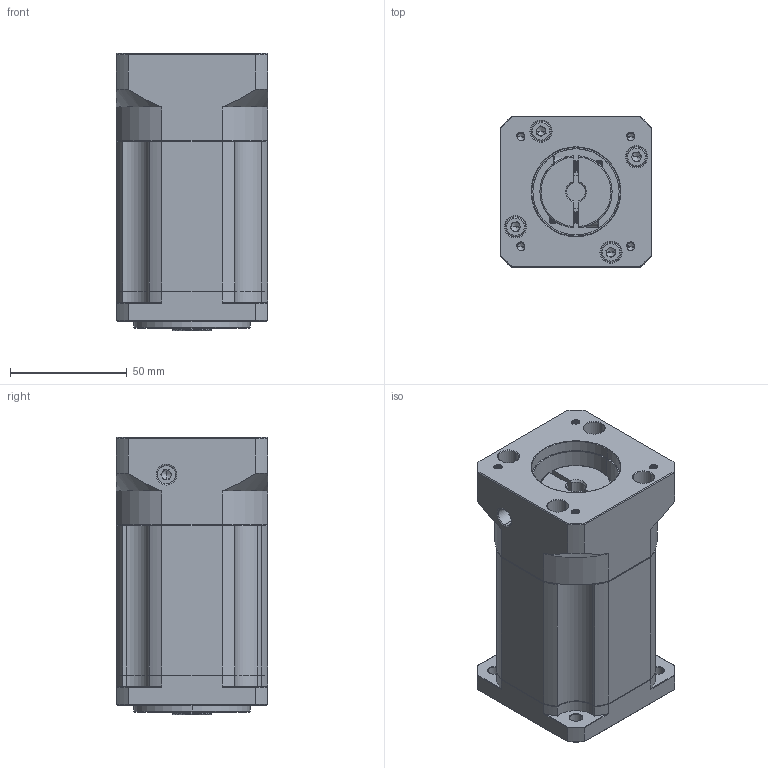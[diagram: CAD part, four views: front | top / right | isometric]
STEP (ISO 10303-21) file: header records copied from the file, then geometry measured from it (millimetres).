
FILE_DESCRIPTION (( 'STEP AP214' ), '1' );
FILE_NAME ('ZB060-K10-L3-P2-8-38.1-47.14X47.14-M4.step', '2023-08-16T07:13:52', ( '' ), ( '' ), 'SwSTEP 2.0', 'SolidWorks 2016', '' );
FILE_SCHEMA (( 'AUTOMOTIVE_DESIGN' ));
Length unit declared in the file: millimetre
Products named in the file (1): ZB060-K10-L3-P2-8-38.1-47.14X47.14-M4
Bounding box: 65 x 65 x 119 mm (x, y, z)
Volume: 387987.2 mm3; surface area: 61307.9 mm2
Topology: 6 solids, 6 shells, 2101 faces, 5654 edges, 3644 vertices
Faces by surface type: plane 1056, bspline 390, cylinder 342, cone 279, torus 34
Entity records: 108962 total; most frequent: CARTESIAN_POINT 35964, ORIENTED_EDGE 11252, DIRECTION 8948, EDGE_CURVE 5626, VERTEX_POINT 3644, LINE 3584, VECTOR 3584, AXIS2_PLACEMENT_3D 2682
